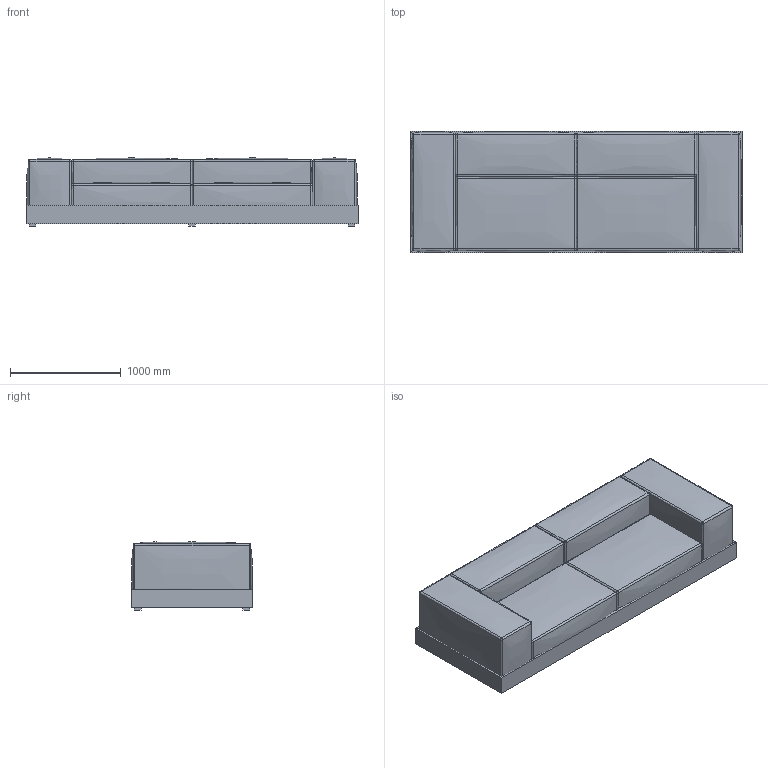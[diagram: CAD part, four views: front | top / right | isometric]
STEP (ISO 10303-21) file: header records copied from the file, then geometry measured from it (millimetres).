
FILE_DESCRIPTION(/* description */ (''),/* implementation_level */ '2;1');
FILE_NAME(/* name */ 'Polp1 300 brl.step',/* time_stamp */ '2024-01-07T10:27:18+01:00',/* author */ (''),/* organization */ (''),/* preprocessor_version */ 'ST-DEVELOPER v20',/* originating_system */ 'Autodesk Translation Framework v12.14.0.127',/* authorisation */ '');
FILE_SCHEMA (('AUTOMOTIVE_DESIGN { 1 0 10303 214 3 1 1 }'));
Length unit declared in the file: millimetre
Products named in the file (7): Polp1 300 brl; Component1; Component2; Component5; Component6; Component7; Component8
Assembly tree (6 placements, depth 2):
  Polp1 300 brl
    Component1
    Component2
    Component5
    Component6
    Component7
    Component8
Bounding box: 3000 x 1100 x 615 mm (x, y, z)
Volume: 1534651478.6 mm3; surface area: 24587559.9 mm2
Topology: 22 solids, 22 shells, 252 faces, 480 edges, 272 vertices
Faces by surface type: plane 112, bspline 78, sphere 48, cylinder 14
Entity records: 15087 total; most frequent: CARTESIAN_POINT 10215, ORIENTED_EDGE 960, DIRECTION 882, EDGE_CURVE 480, AXIS2_PLACEMENT_3D 331, VERTEX_POINT 272, FACE_OUTER_BOUND 252, EDGE_LOOP 252
